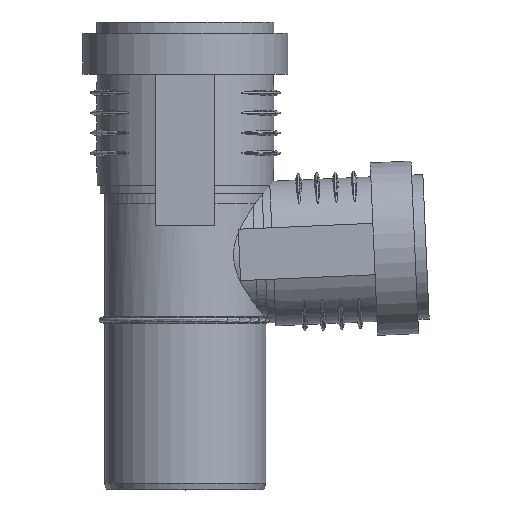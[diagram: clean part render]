
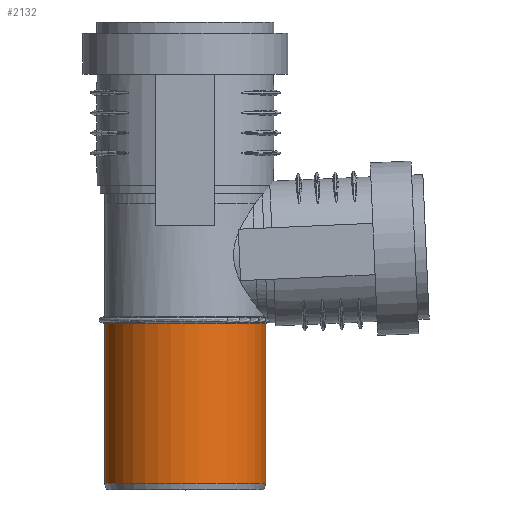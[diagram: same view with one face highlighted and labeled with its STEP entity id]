
A CAD part, top view. The second image highlights one B-rep face of the part: STEP entity #2132.
In plain terms, the highlighted cylindrical face has radius 25.075 mm (diameter 50.15 mm), a full revolution.
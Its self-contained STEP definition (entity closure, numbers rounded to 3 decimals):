
#380=CYLINDRICAL_SURFACE($,#2272,25.075);
#417=FACE_BOUND($,#607,.T.);
#486=FACE_OUTER_BOUND($,#606,.T.);
#606=EDGE_LOOP($,(#1409));
#607=EDGE_LOOP($,(#1410));
#792=CIRCLE($,#2270,25.075);
#794=CIRCLE($,#2273,25.075);
#895=VERTEX_POINT($,#3084);
#897=VERTEX_POINT($,#3089);
#1113=EDGE_CURVE($,#895,#895,#792,.T.);
#1115=EDGE_CURVE($,#897,#897,#794,.T.);
#1409=ORIENTED_EDGE($,*,*,#1115,.T.);
#1410=ORIENTED_EDGE($,*,*,#1113,.F.);
#2132=ADVANCED_FACE($,(#486,#417),#380,.T.);
#2270=AXIS2_PLACEMENT_3D($,#3085,#2519,#2520);
#2272=AXIS2_PLACEMENT_3D($,#3088,#2523,#2524);
#2273=AXIS2_PLACEMENT_3D($,#3090,#2525,#2526);
#2519=DIRECTION('center_axis',(0.,-1.,0.));
#2520=DIRECTION('ref_axis',(1.,0.,0.));
#2523=DIRECTION('center_axis',(0.,1.,0.));
#2524=DIRECTION('ref_axis',(1.,0.,0.));
#2525=DIRECTION('center_axis',(0.,-1.,0.));
#2526=DIRECTION('ref_axis',(1.,0.,0.));
#3084=CARTESIAN_POINT('',(-25.075,2.,0.));
#3085=CARTESIAN_POINT('Origin',(0.,2.,0.));
#3088=CARTESIAN_POINT('Origin',(0.,0.,0.));
#3089=CARTESIAN_POINT('',(-25.075,51.8,0.));
#3090=CARTESIAN_POINT('Origin',(0.,51.8,0.));
